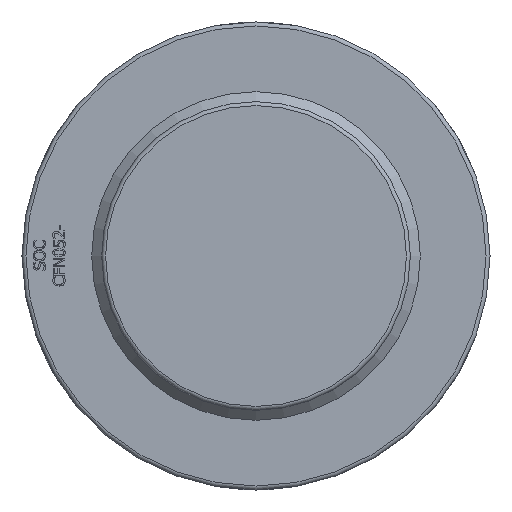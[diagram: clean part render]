
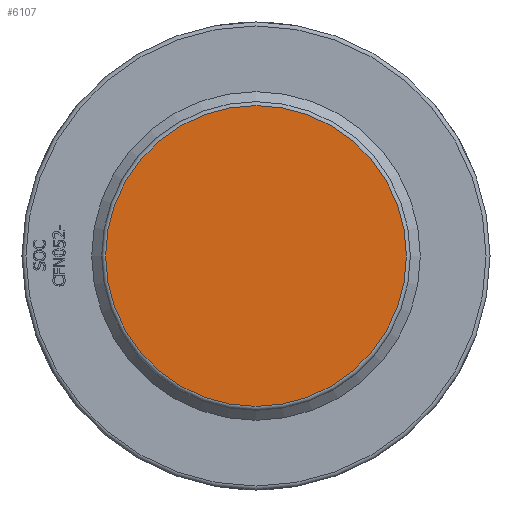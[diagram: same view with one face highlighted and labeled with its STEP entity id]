
A CAD part, front view. The second image highlights one B-rep face of the part: STEP entity #6107.
In plain terms, the highlighted planar face has unit normal (0, -1, 0) as drawn and (0, 1, 0) by its records, which use the part's own axes.
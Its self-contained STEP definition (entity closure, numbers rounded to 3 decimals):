
#51=CIRCLE('',#6408,75.5);
#880=FACE_OUTER_BOUND('',#1239,.T.);
#1239=EDGE_LOOP('',(#4870));
#2743=VERTEX_POINT('',#9539);
#3513=EDGE_CURVE('',#2743,#2743,#51,.T.);
#4870=ORIENTED_EDGE('',*,*,#3513,.F.);
#5881=PLANE('',#6410);
#6107=ADVANCED_FACE('',(#880),#5881,.T.);
#6408=AXIS2_PLACEMENT_3D('',#9540,#6897,#6898);
#6410=AXIS2_PLACEMENT_3D('',#9543,#6901,#6902);
#6897=DIRECTION('center_axis',(0.,-1.,0.));
#6898=DIRECTION('ref_axis',(-1.,0.,0.));
#6901=DIRECTION('center_axis',(0.,1.,0.));
#6902=DIRECTION('ref_axis',(0.,0.,1.));
#9539=CARTESIAN_POINT('',(75.5,136.5,0.));
#9540=CARTESIAN_POINT('Origin',(0.,136.5,0.));
#9543=CARTESIAN_POINT('Origin',(77.5,136.5,0.));
